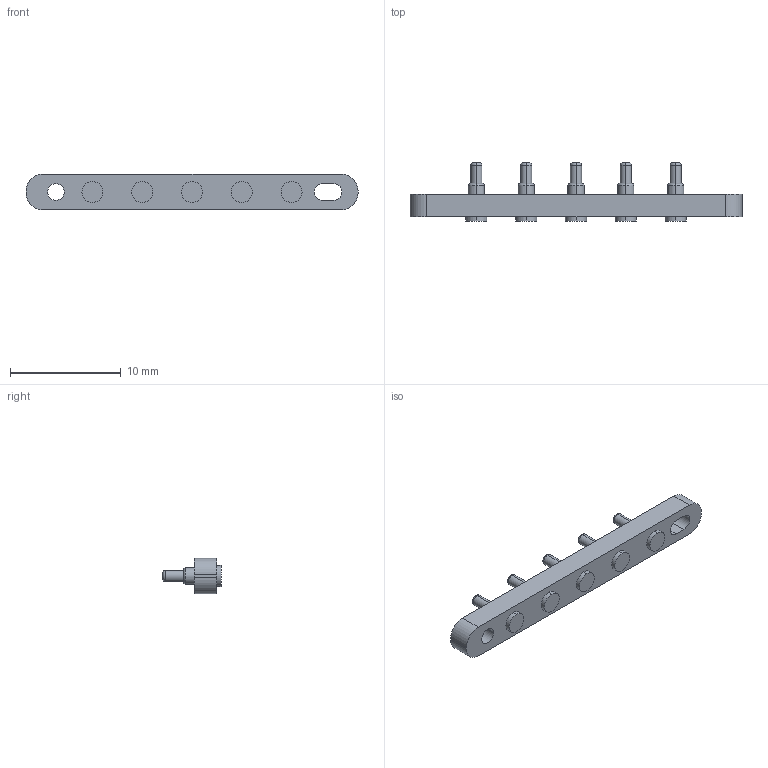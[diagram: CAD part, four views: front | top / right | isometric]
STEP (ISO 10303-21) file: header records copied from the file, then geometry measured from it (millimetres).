
FILE_DESCRIPTION((''),'2;1');
FILE_NAME('ASM0005_ASM','2023-06-07T17:07:27',('USER'),(''),'CREO PARAMETRIC BY PTC INC, 2020154','CREO PARAMETRIC BY PTC INC, 2020154','');
FILE_SCHEMA(('CONFIG_CONTROL_DESIGN'));
Length unit declared in the file: millimetre
Products named in the file (3): H3640-05450A; PRT0005; ASM0005_ASM
Assembly tree (6 placements, depth 2):
  ASM0005_ASM
    H3640-05450A
    PRT0005  x5
Bounding box: 30 x 5.25 x 3.2 mm (x, y, z)
Volume: 198.3 mm3; surface area: 493.8 mm2
Topology: 6 solids, 6 shells, 131 faces, 276 edges, 172 vertices
Faces by surface type: cylinder 68, plane 33, torus 20, cone 10
Entity records: 1574 total; most frequent: DIRECTION 296, CARTESIAN_POINT 248, ORIENTED_EDGE 232, AXIS2_PLACEMENT_3D 124, EDGE_CURVE 116, VERTEX_POINT 76, CIRCLE 68, EDGE_LOOP 64
